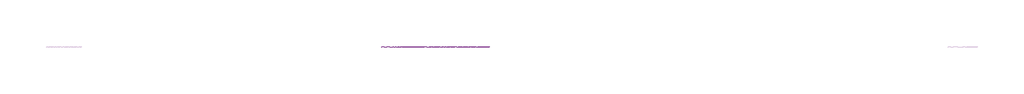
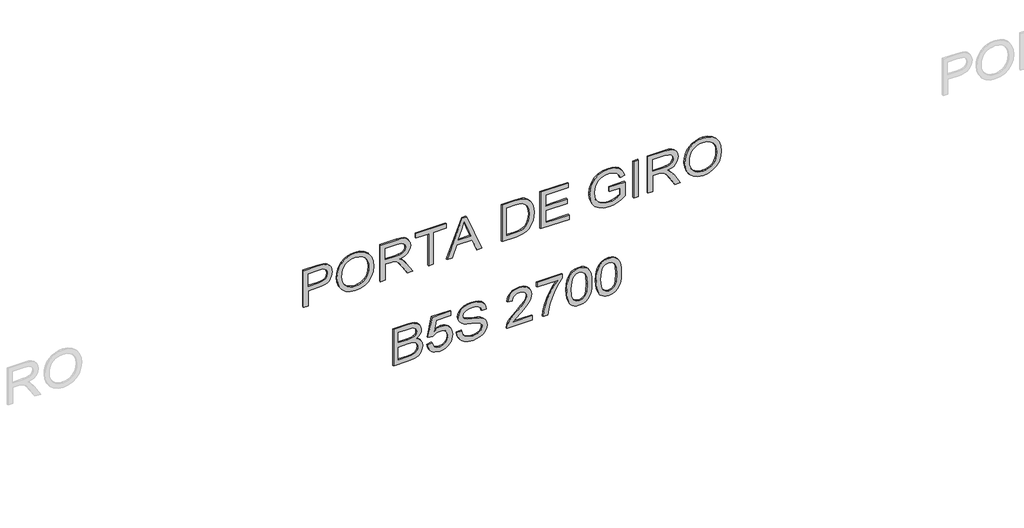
# One storey, part 5 of 13: 1 proxy.
"""IFC4 building model written with IfcOpenShell, lengths in millimetres."""

from ifc_helpers import new_model, si_unit, frame, origin, place, context, project, spatial, polyline, outline, extrude, element, save

model = new_model("IFC4")

# Units and contexts
model_context = context("Model", 3, world=origin())
ifc_project = project(units=[si_unit("LENGTHUNIT", "METRE", prefix="MILLI")], contexts=[model_context])

# Site, building, storey
site = spatial("IfcSite", under=ifc_project)
building = spatial("IfcBuilding", under=site)
storey = spatial("IfcBuildingStorey", under=building, Name="02 - Marelli - Planta Baixa - Portas", Elevation=-12000.0)

# Proxy
placement = place(None, origin())
element("IfcBuildingElementProxy", 1, Name="300mm Arial", ObjectType="300mm Arial", at=placement, inside=storey, context=model_context, shape_type="SweptSolid", body=[
    extrude(outline(polyline([(-6049.0625952, 22248.0968395), (-6049.0625952, 22285.7679558), (-5926.6314672, 22285.7679558), (-5926.6314672, 22362.3609872), (-5924.9668012, 22391.5593213), (-5919.9728031, 22415.8786204), (-5911.6494729, 22435.3188846), (-5899.9968107, 22449.8801138), (-5885.93912, 22460.4866116), (-5870.4007042, 22468.0626814), (-5853.3815634, 22472.6083233), (-5834.8816976, 22474.1235373), (-5813.4249802, 22471.8794571), (-5793.7892787, 22465.1472166), (-5777.1426184, 22454.7269591), (-5764.6530247, 22441.4188279), (-5755.9250244, 22424.8917293), (-5750.5631443, 22404.8145694), (-5747.6936647, 22359.7858132), (-5747.6936647, 22248.0968395), (-6049.0625952, 22248.0968395)]), holes=[polyline([(-5888.9603509, 22285.7679558), (-5785.364781, 22285.7679558), (-5785.364781, 22363.6853623), (-5787.939955, 22401.3564786), (-5794.2675253, 22415.5843148), (-5805.0096796, 22426.7771245), (-5819.283501, 22434.0335969), (-5836.2060728, 22436.452421), (-5858.4813276, 22432.3505367), (-5875.1279879, 22420.044884), (-5885.5022601, 22397.9719643), (-5888.9603509, 22364.5682791), (-5888.9603509, 22285.7679558)])]), frame((0.0, 8778.3159498, 0.0), z_axis=(0.0, 1.0, 0.0), x_axis=(0.0, 0.0, 1.0)), (0.0, 0.0, 1.0), 10.0),
    extrude(outline(polyline([(-5902.3512555, 22511.7946536), (-5940.8960916, 22516.0988729), (-5977.3623943, 22529.011531), (-6009.0554282, 22550.2751103), (-6033.2804576, 22579.6320935), (-6048.6487279, 22615.2798588), (-6053.7714847, 22655.4157845), (-6049.1361716, 22693.2248566), (-6035.2302322, 22728.3667842), (-6012.3111839, 22758.3307727), (-5980.6365441, 22780.6060275), (-5942.1744815, 22794.4291934), (-5898.8931648, 22799.0369154), (-5856.1820651, 22794.6591197), (-5818.2534314, 22781.5257325), (-5786.6339739, 22760.0414239), (-5762.8504029, 22730.6108643), (-5747.9511821, 22695.1654341), (-5742.9847752, 22655.6365137), (-5745.628927, 22625.3460299), (-5753.5613826, 22597.971011), (-5766.7821418, 22573.5114568), (-5785.2912046, 22551.9673675), (-5808.4723689, 22534.3918051), (-5835.7094321, 22521.8378321), (-5867.0023943, 22514.3054482), (-5902.3512555, 22511.7946536)]), holes=[polyline([(-5902.7191375, 22549.4657699), (-5872.1826326, 22551.4293401), (-5846.3504188, 22557.3200505), (-5825.222496, 22567.1379012), (-5808.7988641, 22580.8828923), (-5796.4863136, 22597.3502101), (-5787.6916347, 22615.3350411), (-5782.4148273, 22634.8373854), (-5780.6558915, 22655.8572429), (-5784.3071203, 22685.0210881), (-5795.2608067, 22711.1499068), (-5812.8547631, 22732.8089592), (-5836.426802, 22748.5635057), (-5865.2503563, 22758.1652258), (-5898.5988592, 22761.3657991), (-5925.1369466, 22759.4964987), (-5948.4652636, 22753.8885976), (-5968.5838102, 22744.5420956), (-5985.4925864, 22731.4569929), (-5998.883491, 22715.4748195), (-6008.4484229, 22697.4371054), (-6014.187382, 22677.3438507), (-6016.1003684, 22655.1950553), (-6014.2057761, 22633.4187405), (-6008.5219993, 22613.5600105), (-5999.0490379, 22595.6188655), (-5985.786892, 22579.5953053), (-5969.2276037, 22566.4136336), (-5949.8632152, 22556.9981538), (-5927.6937264, 22551.3488659), (-5902.7191375, 22549.4657699)])]), frame((0.0, 8778.3159498, 0.0), z_axis=(0.0, 1.0, 0.0), x_axis=(0.0, 0.0, 1.0)), (0.0, 0.0, 1.0), 10.0),
    extrude(outline(polyline([(-6049.0625952, 22850.8347003), (-6049.0625952, 22888.5058167), (-5917.2136881, 22888.5058167), (-5917.2136881, 22933.9760313), (-5918.5380633, 22955.8282218), (-5925.7117622, 22973.7440749), (-5945.2462961, 22993.6464909), (-5986.5962324, 23021.9734045), (-6049.0625952, 23061.1896252), (-6049.0625952, 23104.9675826), (-5967.3927923, 23054.7149021), (-5928.61803, 23024.1806965), (-5912.5047986, 23002.7699644), (-5902.5168024, 23039.8800606), (-5894.5015734, 23054.2619474), (-5884.4721905, 23065.8617265), (-5859.8608851, 23081.1748146), (-5830.1728081, 23086.2791773), (-5806.3064636, 23083.1981656), (-5784.5922289, 23073.9551304), (-5767.0810459, 23059.5525503), (-5755.8238568, 23040.9929037), (-5749.7262128, 23015.5998489), (-5747.6936647, 22980.6970446), (-5747.6936647, 22850.8347003), (-6049.0625952, 22850.8347003)]), holes=[polyline([(-5879.5425718, 22888.5058167), (-5785.364781, 22888.5058167), (-5785.364781, 22982.3157254), (-5788.6205367, 23012.1233641), (-5798.3878037, 23032.6787706), (-5813.195054, 23044.6257384), (-5831.5707596, 23048.608061), (-5844.8788908, 23046.5203306), (-5857.1385583, 23040.2571397), (-5867.2737073, 23029.9748379), (-5874.2082829, 23015.8297752), (-5878.2089996, 22997.0402023), (-5879.5425718, 22972.82437), (-5879.5425718, 22888.5058167)])]), frame((0.0, 8778.3159498, 0.0), z_axis=(0.0, 1.0, 0.0), x_axis=(0.0, 0.0, 1.0)), (0.0, 0.0, 1.0), 10.0),
    extrude(outline(polyline([(-6049.0625952, 23227.5458634), (-6049.0625952, 23265.2169797), (-5785.364781, 23265.2169797), (-5785.364781, 23364.10366), (-5747.6936647, 23364.10366), (-5747.6936647, 23128.6591831), (-5785.364781, 23128.6591831), (-5785.364781, 23227.5458634), (-6049.0625952, 23227.5458634)])), frame((0.0, 8778.3159498, 0.0), z_axis=(0.0, 1.0, 0.0), x_axis=(0.0, 0.0, 1.0)), (0.0, 0.0, 1.0), 10.0),
    extrude(outline(polyline([(-6049.0625952, 23371.3877235), (-6049.0625952, 23411.1925554), (-5954.8848044, 23445.6263102), (-5954.8848044, 23569.7496953), (-6049.0625952, 23604.2570265), (-6049.0625952, 23644.0618583), (-5747.6936647, 23523.7644459), (-5747.6936647, 23491.6851359), (-6049.0625952, 23371.3877235)]), holes=[polyline([(-5917.2136881, 23459.4586732), (-5836.6475312, 23488.9628092), (-5785.364781, 23507.7247909), (-5843.1222543, 23528.8412175), (-5917.2136881, 23555.9909087), (-5917.2136881, 23459.4586732)])]), frame((0.0, 8778.3159498, 0.0), z_axis=(0.0, 1.0, 0.0), x_axis=(0.0, 0.0, 1.0)), (0.0, 0.0, 1.0), 10.0),
    extrude(outline(polyline([(-6049.0625952, 23802.0303871), (-6049.0625952, 23910.9970341), (-6043.9122473, 23959.4470928), (-6037.5570858, 23978.9908238), (-6028.7922972, 23995.4627401), (-6016.9740882, 24009.810138), (-6001.458665, 24022.9803134), (-5981.8045694, 24034.4214434), (-5957.570343, 24043.5817051), (-5929.1054736, 24049.5965757), (-5896.7594492, 24051.6015326), (-5858.6836627, 24048.6400825), (-5825.0960365, 24039.7557324), (-5796.5483937, 24024.9116939), (-5773.5925572, 24004.0711788), (-5760.4039877, 23983.8008809), (-5752.0346723, 23959.7781866), (-5747.6936647, 23905.9938389), (-5747.6936647, 23802.0303871), (-6049.0625952, 23802.0303871)]), holes=[polyline([(-6011.3914789, 23839.7015034), (-5785.364781, 23839.7015034), (-5785.364781, 23905.3316513), (-5786.8730972, 23937.0798675), (-5791.3980458, 23958.748117), (-5803.97961, 23980.0392875), (-5824.8017309, 23997.8539731), (-5855.1152073, 24009.9113055), (-5896.170838, 24013.9304163), (-5927.155699, 24011.8794742), (-5953.155759, 24005.7266478), (-5974.2629885, 23995.8950015), (-5990.5693579, 23982.8075995), (-5999.3801317, 23970.6307055), (-6005.9468253, 23954.8485679), (-6010.0303155, 23933.9344764), (-6011.3914789, 23906.3617209), (-6011.3914789, 23839.7015034)])]), frame((0.0, 8778.3159498, 0.0), z_axis=(0.0, 1.0, 0.0), x_axis=(0.0, 0.0, 1.0)), (0.0, 0.0, 1.0), 10.0),
    extrude(outline(polyline([(-6049.0625952, 24103.3993175), (-6049.0625952, 24324.7171258), (-6011.3914789, 24324.7171258), (-6011.3914789, 24141.0704338), (-5912.5047986, 24141.0704338), (-5912.5047986, 24310.5904572), (-5874.8336823, 24310.5904572), (-5874.8336823, 24141.0704338), (-5785.364781, 24141.0704338), (-5785.364781, 24320.0082363), (-5747.6936647, 24320.0082363), (-5747.6936647, 24103.3993175), (-6049.0625952, 24103.3993175)])), frame((0.0, 8778.3159498, 0.0), z_axis=(0.0, 1.0, 0.0), x_axis=(0.0, 0.0, 1.0)), (0.0, 0.0, 1.0), 10.0),
    extrude(outline(polyline([(-5931.3403567, 24640.2127249), (-5931.3403567, 24724.9727366), (-5985.786892, 24724.9727366), (-5996.4278787, 24708.9238845), (-6006.4250719, 24686.8233737), (-6013.6815443, 24661.3751367), (-6016.1003684, 24635.2831062), (-6012.890598, 24605.7329849), (-6003.2612868, 24577.8567267), (-5987.0192967, 24554.0363675), (-5963.9714897, 24536.6539432), (-5934.3293979, 24526.0313506), (-5898.3045536, 24522.4904864), (-5867.586407, 24525.4335424), (-5839.1491287, 24534.2627103), (-5810.1232393, 24553.6500914), (-5798.1854686, 24568.0894597), (-5788.7860836, 24586.4651654), (-5782.6884395, 24608.694435), (-5780.6558915, 24634.694495), (-5782.5412867, 24656.9053704), (-5788.1974724, 24677.0377126), (-5796.9898521, 24693.9234962), (-5808.2838293, 24706.3946958), (-5823.2658236, 24715.8216719), (-5843.1222543, 24723.574785), (-5833.3365932, 24758.3028453), (-5805.4971232, 24748.7103223), (-5783.4885829, 24735.5309498), (-5766.4924347, 24717.7162642), (-5753.6901413, 24694.2178018), (-5745.6611167, 24666.3139524), (-5742.9847752, 24635.2831062), (-5747.6016942, 24593.0134649), (-5761.4524514, 24555.967748), (-5784.803761, 24525.553104), (-5817.9223376, 24503.1766817), (-5857.4052727, 24489.408698), (-5899.8496579, 24484.8193701), (-5941.9905405, 24489.4270921), (-5979.9743565, 24503.2502581), (-6011.6397992, 24526.1141241), (-6034.825562, 24557.8439462), (-6049.035004, 24596.0392943), (-6053.7714847, 24638.2997385), (-6050.7916406, 24670.6457629), (-6041.8521081, 24702.2008411), (-6027.0080696, 24732.8913965), (-6006.3147073, 24762.6438529), (-5893.6692404, 24762.6438529), (-5893.6692404, 24640.2127249), (-5931.3403567, 24640.2127249)])), frame((0.0, 8778.3159498, 0.0), z_axis=(0.0, 1.0, 0.0), x_axis=(0.0, 0.0, 1.0)), (0.0, 0.0, 1.0), 10.0),
    extrude(outline(polyline([(24866.2394227, 8778.3159498), (24828.5683064, 8778.3159498), (24828.5683064, 8788.3159498), (24866.2394227, 8788.3159498), (24866.2394227, 8778.3159498)])), frame((0.0, 0.0, -6049.0625952), z_axis=(0.0, 0.0, 1.0), x_axis=(1.0, 0.0, 0.0)), (0.0, 0.0, 1.0), 301.3689304),
    extrude(outline(polyline([(-6049.0625952, 24941.5816553), (-6049.0625952, 24979.2527716), (-5917.2136881, 24979.2527716), (-5917.2136881, 25024.7229862), (-5918.5380633, 25046.5751768), (-5925.7117622, 25064.4910299), (-5945.2462961, 25084.3934459), (-5986.5962324, 25112.7203595), (-6049.0625952, 25151.9365802), (-6049.0625952, 25195.7145376), (-5967.3927923, 25145.4618571), (-5928.61803, 25114.9276515), (-5912.5047986, 25093.5169193), (-5902.5168024, 25130.6270156), (-5894.5015734, 25145.0089024), (-5884.4721905, 25156.6086815), (-5859.8608851, 25171.9217696), (-5830.1728081, 25177.0261323), (-5806.3064636, 25173.9451205), (-5784.5922289, 25164.7020854), (-5767.0810459, 25150.2995053), (-5755.8238568, 25131.7398586), (-5749.7262128, 25106.3468039), (-5747.6936647, 25071.4439996), (-5747.6936647, 24941.5816553), (-6049.0625952, 24941.5816553)]), holes=[polyline([(-5879.5425718, 24979.2527716), (-5785.364781, 24979.2527716), (-5785.364781, 25073.0626804), (-5788.6205367, 25102.8703191), (-5798.3878037, 25123.4257256), (-5813.195054, 25135.3726933), (-5831.5707596, 25139.3550159), (-5844.8788908, 25137.2672856), (-5857.1385583, 25131.0040947), (-5867.2737073, 25120.7217929), (-5874.2082829, 25106.5767302), (-5878.2089996, 25087.7871573), (-5879.5425718, 25063.5713249), (-5879.5425718, 24979.2527716)])]), frame((0.0, 8778.3159498, 0.0), z_axis=(0.0, 1.0, 0.0), x_axis=(0.0, 0.0, 1.0)), (0.0, 0.0, 1.0), 10.0),
    extrude(outline(polyline([(-5902.3512555, 25228.8239172), (-5940.8960916, 25233.1281365), (-5977.3623943, 25246.0407945), (-6009.0554282, 25267.3043739), (-6033.2804576, 25296.6613571), (-6048.6487279, 25332.3091224), (-6053.7714847, 25372.4450481), (-6049.1361716, 25410.2541201), (-6035.2302322, 25445.3960477), (-6012.3111839, 25475.3600362), (-5980.6365441, 25497.635291), (-5942.1744815, 25511.458457), (-5898.8931648, 25516.066179), (-5856.1820651, 25511.6883833), (-5818.2534314, 25498.554996), (-5786.6339739, 25477.0706875), (-5762.8504029, 25447.6401279), (-5747.9511821, 25412.1946977), (-5742.9847752, 25372.6657773), (-5745.628927, 25342.3752935), (-5753.5613826, 25315.0002745), (-5766.7821418, 25290.5407204), (-5785.2912046, 25268.996631), (-5808.4723689, 25251.4210687), (-5835.7094321, 25238.8670956), (-5867.0023943, 25231.3347118), (-5902.3512555, 25228.8239172)]), holes=[polyline([(-5902.7191375, 25266.4950335), (-5872.1826326, 25268.4586036), (-5846.3504188, 25274.3493141), (-5825.222496, 25284.1671648), (-5808.7988641, 25297.9121559), (-5796.4863136, 25314.3794737), (-5787.6916347, 25332.3643047), (-5782.4148273, 25351.866649), (-5780.6558915, 25372.8865065), (-5784.3071203, 25402.0503517), (-5795.2608067, 25428.1791704), (-5812.8547631, 25449.8382228), (-5836.426802, 25465.5927693), (-5865.2503563, 25475.1944893), (-5898.5988592, 25478.3950627), (-5925.1369466, 25476.5257623), (-5948.4652636, 25470.9178611), (-5968.5838102, 25461.5713592), (-5985.4925864, 25448.4862565), (-5998.883491, 25432.5040831), (-6008.4484229, 25414.466369), (-6014.187382, 25394.3731143), (-6016.1003684, 25372.2243189), (-6014.2057761, 25350.448004), (-6008.5219993, 25330.5892741), (-5999.0490379, 25312.648129), (-5985.786892, 25296.6245689), (-5969.2276037, 25283.4428971), (-5949.8632152, 25274.0274173), (-5927.6937264, 25268.3781294), (-5902.7191375, 25266.4950335)])]), frame((0.0, 8778.3159498, 0.0), z_axis=(0.0, 1.0, 0.0), x_axis=(0.0, 0.0, 1.0)), (0.0, 0.0, 1.0), 10.0),
    extrude(outline(polyline([(-6780.9115023, 22954.4302702), (-6780.9115023, 23068.5472651), (-6775.7243661, 23116.8501711), (-6769.3048253, 23134.8855859), (-6760.4204751, 23149.6284568), (-6748.1516106, 23161.6673951), (-6731.5785267, 23171.5910119), (-6712.089978, 23178.240479), (-6691.074719, 23180.456968), (-6665.8564083, 23177.2104094), (-6644.2065528, 23167.4707336), (-6627.2471929, 23151.6977931), (-6616.1003684, 23130.3514403), (-6604.3557357, 23148.2213082), (-6589.4289238, 23160.9224341), (-6572.3683962, 23168.5100002), (-6554.2226168, 23171.039189), (-6534.5041419, 23168.0317536), (-6515.6685837, 23159.0094477), (-6499.6565199, 23144.680444), (-6488.4085279, 23125.7529153), (-6481.7590608, 23101.0588364), (-6479.5425718, 23069.4301819), (-6479.5425718, 22954.4302702), (-6780.9115023, 22954.4302702)]), holes=[polyline([(-6743.2403859, 22992.1013865), (-6639.6448161, 22992.1013865), (-6639.6448161, 23065.6777855), (-6640.9048119, 23092.50558), (-6644.6847994, 23112.2148579), (-6651.5733898, 23126.1299944), (-6662.1591942, 23135.5753646), (-6675.6972516, 23140.9832299), (-6691.442601, 23142.7858517), (-6704.9990525, 23141.2499444), (-6716.8264587, 23136.6422224), (-6733.5650895, 23120.9704494), (-6741.768858, 23097.3156371), (-6743.2403859, 23069.3566055), (-6743.2403859, 22992.1013865)]), polyline([(-6601.9736998, 22992.1013865), (-6517.2136881, 22992.1013865), (-6517.2136881, 23055.6713953), (-6521.1500255, 23104.0846658), (-6526.7510288, 23116.5742596), (-6535.6813643, 23125.7897035), (-6547.1224943, 23131.4734804), (-6560.2558815, 23133.3680726), (-6573.7847419, 23131.3355246), (-6584.7936106, 23125.2378806), (-6593.153729, 23115.1303227), (-6598.7363382, 23101.0680335), (-6601.9736998, 23060.8953196), (-6601.9736998, 22992.1013865)])]), frame((0.0, 8778.3159498, 0.0), z_axis=(0.0, 1.0, 0.0), x_axis=(0.0, 0.0, 1.0)), (0.0, 0.0, 1.0), 10.0),
    extrude(outline(polyline([(-6700.8603801, 23218.1280843), (-6735.4136965, 23227.3159372), (-6749.8553641, 23236.0416382), (-6762.4070379, 23247.5218557), (-6772.5628802, 23261.3197298), (-6779.8170533, 23276.9984006), (-6785.6203918, 23313.9981323), (-6783.362516, 23337.4873977), (-6776.5888888, 23358.3647009), (-6765.2995101, 23376.630042), (-6749.4943799, 23392.2834209), (-6734.0617302, 23402.6163064), (-6717.2679171, 23409.9969389), (-6679.5968008, 23415.9014449), (-6659.3356999, 23414.2620708), (-6641.0059795, 23409.3439484), (-6624.6076396, 23401.1470777), (-6610.1406801, 23389.6714587), (-6598.3270695, 23375.8092053), (-6589.8887763, 23360.4524312), (-6584.8258003, 23343.6011366), (-6583.1381416, 23325.2553213), (-6588.5827952, 23297.0571664), (-6604.9167558, 23270.1465985), (-6521.9225776, 23286.2598298), (-6521.9225776, 23401.7747763), (-6484.2514613, 23401.7747763), (-6484.2514613, 23255.7992006), (-6639.6448161, 23222.8369739), (-6644.3537056, 23260.5080902), (-6627.3575575, 23281.6613049), (-6622.4463328, 23296.4593582), (-6620.809258, 23314.7338963), (-6624.9111422, 23342.6285486), (-6637.2167949, 23362.448191), (-6656.6041761, 23374.2847942), (-6681.9512456, 23378.2303286), (-6708.8710105, 23374.0180798), (-6729.8862695, 23361.3813333), (-6743.433524, 23341.1478235), (-6747.9492755, 23314.1452851), (-6744.7027169, 23291.9436067), (-6734.9630411, 23274.7819116), (-6718.7670362, 23262.7153821), (-6696.1514906, 23255.7992006), (-6700.8603801, 23218.1280843)])), frame((0.0, 8778.3159498, 0.0), z_axis=(0.0, 1.0, 0.0), x_axis=(0.0, 0.0, 1.0)), (0.0, 0.0, 1.0), 10.0),
    extrude(outline(polyline([(-6677.3159324, 23448.8636717), (-6707.7397734, 23453.333438), (-6734.8526765, 23465.1240559), (-6757.1095372, 23483.4905645), (-6772.9652512, 23507.6880027), (-6782.4566066, 23538.0658585), (-6785.6203918, 23574.9736197), (-6782.6865329, 23605.0387757), (-6773.8849561, 23631.9585407), (-6759.7950757, 23654.3441601), (-6740.9963058, 23670.8068794), (-6719.1533123, 23680.9328313), (-6695.9307614, 23684.3081486), (-6673.2140482, 23681.3742897), (-6653.3300263, 23672.572713), (-6636.4626368, 23657.5907187), (-6622.7958207, 23636.1156073), (-6613.9850469, 23610.989267), (-6603.8866862, 23569.4553897), (-6593.2548965, 23529.2090995), (-6582.8438361, 23507.9455201), (-6571.2003709, 23498.9508054), (-6556.7242144, 23495.9525671), (-6539.7464603, 23500.18321), (-6525.4542448, 23512.8751389), (-6515.7421601, 23534.8192999), (-6512.5047986, 23566.8066394), (-6515.7789483, 23598.0582149), (-6525.6013976, 23620.5909871), (-6541.8249936, 23635.0119613), (-6564.3025835, 23641.9281428), (-6564.3025835, 23679.5992591), (-6539.3417901, 23675.350222), (-6517.1401117, 23664.6632501), (-6498.8379825, 23647.7774665), (-6485.5758365, 23624.9319946), (-6477.5192208, 23597.1201158), (-6474.8336823, 23565.3351114), (-6477.3996592, 23535.9965223), (-6485.0975899, 23509.4906245), (-6497.7527306, 23487.4085078), (-6515.1903371, 23471.3412616), (-6535.7641377, 23461.5464035), (-6557.8278604, 23458.2814508), (-6577.5647294, 23460.9210041), (-6595.2782475, 23468.839664), (-6610.6373208, 23482.1294011), (-6623.3108555, 23500.8821858), (-6632.3699497, 23523.9207958), (-6641.8888963, 23559.9272461), (-6656.2730823, 23614.7784515), (-6664.0813776, 23630.8548947), (-6673.3795951, 23640.3830384), (-6684.2780992, 23645.0735338), (-6696.8872546, 23646.6370323), (-6709.8275037, 23644.549302), (-6722.1607476, 23638.286111), (-6732.9029019, 23627.7554889), (-6741.0698822, 23612.8654652), (-6746.2294272, 23594.4897595), (-6747.9492755, 23573.5020917), (-6745.6776042, 23549.6633384), (-6738.8625902, 23528.3261827), (-6728.3595592, 23510.870182), (-6715.0238369, 23498.6748939), (-6698.2208268, 23490.8574015), (-6677.3159324, 23486.534788), (-6677.3159324, 23448.8636717)])), frame((0.0, 8778.3159498, 0.0), z_axis=(0.0, 1.0, 0.0), x_axis=(0.0, 0.0, 1.0)), (0.0, 0.0, 1.0), 10.0),
    extrude(outline(polyline([(-6743.2403859, 24037.474864), (-6743.2403859, 23889.5127255), (-6724.073734, 23906.5088737), (-6687.8373575, 23949.8453727), (-6658.8206651, 23982.5408851), (-6636.2235136, 24003.8136614), (-6617.2959849, 24017.1585808), (-6599.2881612, 24026.0705221), (-6581.5838402, 24031.0921114), (-6563.5668195, 24032.7659745), (-6546.4143215, 24031.2139723), (-6530.7149573, 24026.5579658), (-6516.4687271, 24018.7979549), (-6503.6756307, 24007.9339398), (-6493.1174174, 23994.4073787), (-6485.5758365, 23978.65973), (-6481.050888, 23960.6909938), (-6479.5425718, 23940.5011701), (-6484.9688312, 23902.6185216), (-6491.7516555, 23886.8846685), (-6501.2476095, 23873.2891295), (-6513.3279345, 23862.0894221), (-6527.8638719, 23853.5430635), (-6564.3025835, 23844.4103929), (-6569.011473, 23882.0815092), (-6547.3616176, 23886.1558023), (-6530.9724747, 23897.9372232), (-6520.6533848, 23916.1933672), (-6517.2136881, 23939.6918297), (-6520.7361582, 23962.068252), (-6531.3035685, 23979.7541789), (-6546.9845386, 23991.2596883), (-6565.8476879, 23995.0948581), (-6586.890538, 23991.0297621), (-6608.5219993, 23978.834474), (-6635.1750499, 23954.4438977), (-6671.2826677, 23913.7929372), (-6694.3396717, 23886.2937581), (-6714.9502605, 23866.6304654), (-6734.6411443, 23853.0372257), (-6754.9390334, 23843.7482053), (-6780.9115023, 23839.7015034), (-6780.9115023, 24037.474864), (-6743.2403859, 24037.474864)])), frame((0.0, 8778.3159498, 0.0), z_axis=(0.0, 1.0, 0.0), x_axis=(0.0, 0.0, 1.0)), (0.0, 0.0, 1.0), 10.0),
    extrude(outline(polyline([(-6521.9225776, 24075.1459803), (-6521.9225776, 24235.2482246), (-6557.2668403, 24205.9280296), (-6599.8767724, 24178.3000917), (-6647.0116531, 24154.6360824), (-6695.9307614, 24137.2076729), (-6742.0815577, 24126.3091688), (-6780.9115023, 24122.2348757), (-6780.9115023, 24159.905992), (-6738.1820085, 24164.9091871), (-6699.0209701, 24173.8855078), (-6646.6805593, 24192.1968341), (-6595.7564941, 24216.8173366), (-6550.387447, 24244.730383), (-6514.7120905, 24272.9193409), (-6484.2514613, 24272.9193409), (-6484.2514613, 24075.1459803), (-6521.9225776, 24075.1459803)])), frame((0.0, 8778.3159498, 0.0), z_axis=(0.0, 1.0, 0.0), x_axis=(0.0, 0.0, 1.0)), (0.0, 0.0, 1.0), 10.0),
    extrude(outline(polyline([(-6632.6550582, 24305.8815677), (-6672.0966066, 24307.7577658), (-6705.9555457, 24313.3863604), (-6734.2318756, 24322.7673513), (-6756.9255962, 24335.9007385), (-6769.4795693, 24349.5859487), (-6778.4466929, 24365.6256037), (-6783.8269671, 24384.0197034), (-6785.6203918, 24404.768248), (-6781.4909164, 24435.2196801), (-6769.1024902, 24459.9137591), (-6748.3171575, 24479.0160317), (-6718.9969625, 24492.6920448), (-6680.6176733, 24500.9142074), (-6632.6550582, 24503.6549283), (-6592.6938765, 24501.944277), (-6561.8377741, 24496.8123232), (-6537.5391683, 24488.9764367), (-6517.2504763, 24479.1539874), (-6501.1096538, 24466.1493589), (-6489.2546565, 24448.7669346), (-6481.970593, 24427.9816019), (-6479.5425718, 24404.768248), (-6483.6444561, 24374.4823627), (-6495.9501088, 24349.8434661), (-6516.6526681, 24330.7136023), (-6545.9452719, 24316.9548157), (-6584.4165316, 24308.6498797), (-6632.6550582, 24305.8815677)]), holes=[polyline([(-6632.5814818, 24343.552684), (-6574.0882446, 24348.1144207), (-6553.0086062, 24353.8165916), (-6537.3736214, 24361.7996309), (-6522.2536714, 24380.7455537), (-6517.2136881, 24404.3267896), (-6522.9342531, 24429.2324007), (-6540.0959482, 24448.9140874), (-6554.4571416, 24456.3820919), (-6574.6584617, 24461.7163808), (-6632.5814818, 24465.983812), (-6691.7461037, 24461.569228), (-6712.0095038, 24456.0509981), (-6726.0602968, 24448.3254762), (-6742.4770308, 24428.6070013), (-6747.9492755, 24404.768248), (-6742.4954249, 24380.9294947), (-6726.1338732, 24361.2110197), (-6712.1060728, 24353.4854978), (-6691.8380742, 24347.9672679), (-6632.5814818, 24343.552684)])]), frame((0.0, 8778.3159498, 0.0), z_axis=(0.0, 1.0, 0.0), x_axis=(0.0, 0.0, 1.0)), (0.0, 0.0, 1.0), 10.0),
    extrude(outline(polyline([(-6632.6550582, 24536.617155), (-6672.0966066, 24538.4933532), (-6705.9555457, 24544.1219477), (-6734.2318756, 24553.5029386), (-6756.9255962, 24566.6363259), (-6769.4795693, 24580.3215361), (-6778.4466929, 24596.3611911), (-6783.8269671, 24614.7552908), (-6785.6203918, 24635.5038354), (-6781.4909164, 24665.9552675), (-6769.1024902, 24690.6493464), (-6748.3171575, 24709.751619), (-6718.9969625, 24723.4276322), (-6680.6176733, 24731.6497948), (-6632.6550582, 24734.3905157), (-6592.6938765, 24732.6798644), (-6561.8377741, 24727.5479105), (-6537.5391683, 24719.712024), (-6517.2504763, 24709.8895748), (-6501.1096538, 24696.8849462), (-6489.2546565, 24679.502522), (-6481.970593, 24658.7171892), (-6479.5425718, 24635.5038354), (-6483.6444561, 24605.2179501), (-6495.9501088, 24580.5790535), (-6516.6526681, 24561.4491897), (-6545.9452719, 24547.6904031), (-6584.4165316, 24539.3854671), (-6632.6550582, 24536.617155)]), holes=[polyline([(-6632.5814818, 24574.2882714), (-6574.0882446, 24578.8500081), (-6553.0086062, 24584.552179), (-6537.3736214, 24592.5352183), (-6522.2536714, 24611.4811411), (-6517.2136881, 24635.062377), (-6522.9342531, 24659.967988), (-6540.0959482, 24679.6496748), (-6554.4571416, 24687.1176793), (-6574.6584617, 24692.4519682), (-6632.5814818, 24696.7193993), (-6691.7461037, 24692.3048154), (-6712.0095038, 24686.7865855), (-6726.0602968, 24679.0610636), (-6742.4770308, 24659.3425886), (-6747.9492755, 24635.5038354), (-6742.4954249, 24611.6650821), (-6726.1338732, 24591.9466071), (-6712.1060728, 24584.2210852), (-6691.8380742, 24578.7028553), (-6632.5814818, 24574.2882714)])]), frame((0.0, 8778.3159498, 0.0), z_axis=(0.0, 1.0, 0.0), x_axis=(0.0, 0.0, 1.0)), (0.0, 0.0, 1.0), 10.0),
])

save(model, "model.ifc")
